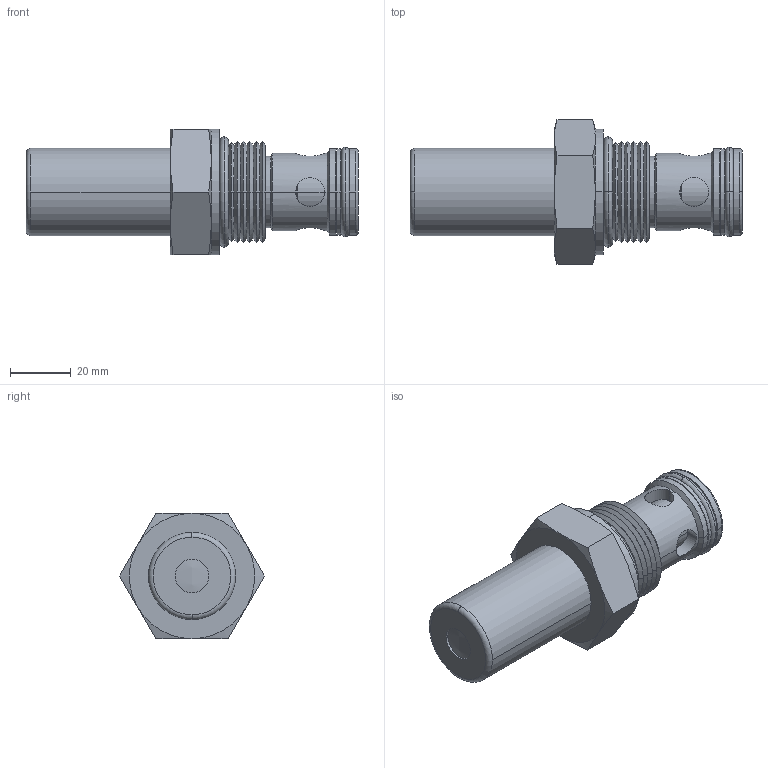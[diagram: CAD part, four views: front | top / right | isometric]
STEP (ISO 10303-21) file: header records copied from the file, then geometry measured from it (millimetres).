
FILE_DESCRIPTION((''),'2;1');
FILE_NAME('U:\Solid model CD\Solid model full\Mechanical\STEP\SJRVR0T-3D Full.stp','2008-07-29T09:59:36',('Dan'),(''),'Autodesk Inventor 9','Autodesk Inventor 9','');
FILE_SCHEMA(('AUTOMOTIVE_DESIGN { 1 0 10303 214 1 1 1 1 }'));
Length unit declared in the file: inch
Products named in the file (5): SJRVR0T-3D Full; SJRVR0T-3D Full1; SJRVR0T-3D Full2; SJRVR0T-3D Full3; SJRVR0T-3D Full4
Assembly tree (4 placements, depth 2):
  SJRVR0T-3D Full
    SJRVR0T-3D Full1
    SJRVR0T-3D Full2
    SJRVR0T-3D Full3
    SJRVR0T-3D Full4
Bounding box: 109.22 x 47.66 x 41.27 mm (x, y, z)
Volume: 79018.4 mm3; surface area: 19585.4 mm2
Topology: 4 solids, 5 shells, 143 faces, 314 edges, 184 vertices
Faces by surface type: cone 60, cylinder 44, plane 24, torus 12, bspline 2, sphere 1
Entity records: 4326 total; most frequent: CARTESIAN_POINT 1030, DIRECTION 730, ORIENTED_EDGE 628, AXIS2_PLACEMENT_3D 314, EDGE_CURVE 314, VERTEX_POINT 184, CIRCLE 164, EDGE_LOOP 162
